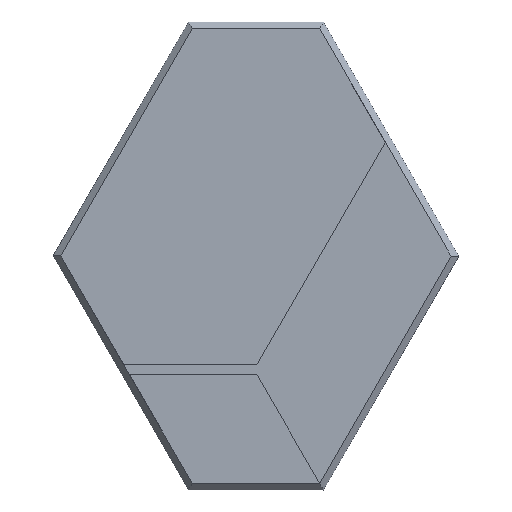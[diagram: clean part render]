
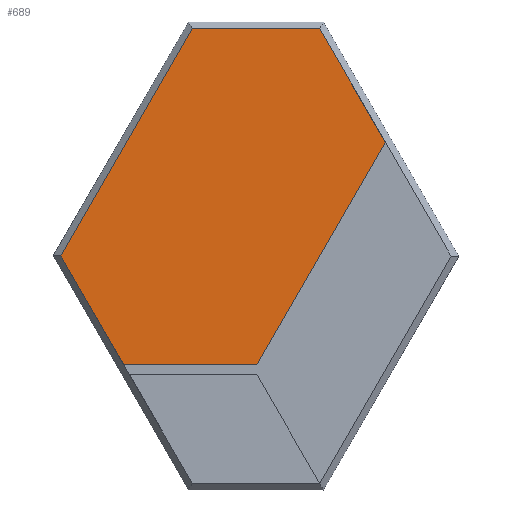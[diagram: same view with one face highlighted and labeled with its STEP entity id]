
A CAD part, front view. The second image highlights one B-rep face of the part: STEP entity #689.
In plain terms, the highlighted planar face has unit normal (0, -1, 0) as drawn and (0, 0, 1) by its records, which use the part's own axes.
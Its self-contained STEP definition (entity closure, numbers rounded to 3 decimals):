
#42 = EDGE_CURVE ( 'NONE', #2975, #2990, #504, .T. ) ;
#47 = VERTEX_POINT ( 'NONE', #3297 ) ;
#154 = EDGE_CURVE ( 'NONE', #47, #2588, #166, .T. ) ;
#166 = LINE ( 'NONE', #1404, #223 ) ;
#184 = DIRECTION ( 'NONE',  ( -0.5, -0.866, 0. ) ) ;
#223 = VECTOR ( 'NONE', #184, 1000. ) ;
#235 = CARTESIAN_POINT ( 'NONE',  ( 193.465, 170., 20. ) ) ;
#244 = CARTESIAN_POINT ( 'NONE',  ( 71.39, -41.253, 20. ) ) ;
#299 = DIRECTION ( 'NONE',  ( 1., 0., 0. ) ) ;
#408 = DIRECTION ( 'NONE',  ( -1., 0., 0. ) ) ;
#452 = DIRECTION ( 'NONE',  ( -0.5, 0.866, 0. ) ) ;
#471 = LINE ( 'NONE', #3914, #3871 ) ;
#504 = LINE ( 'NONE', #244, #3018 ) ;
#538 = VECTOR ( 'NONE', #1975, 1000. ) ;
#593 = CARTESIAN_POINT ( 'NONE',  ( -197.799, -162.5, 20. ) ) ;
#626 = VECTOR ( 'NONE', #408, 1000. ) ;
#659 = DIRECTION ( 'NONE',  ( 0., 0., 1. ) ) ;
#689 = ADVANCED_FACE ( 'NONE', ( #3770 ), #2554, .T. ) ;
#1063 = ORIENTED_EDGE ( 'NONE', *, *, #2722, .T. ) ;
#1077 = VECTOR ( 'NONE', #2939, 1000. ) ;
#1125 = ORIENTED_EDGE ( 'NONE', *, *, #154, .T. ) ;
#1269 = CARTESIAN_POINT ( 'NONE',  ( 0., 340., 20. ) ) ;
#1366 = EDGE_LOOP ( 'NONE', ( #2581, #3032, #2559, #2956, #1125, #1063 ) ) ;
#1404 = CARTESIAN_POINT ( 'NONE',  ( -218.679, 126.365, 20. ) ) ;
#1881 = CARTESIAN_POINT ( 'NONE',  ( 0., 0., 20. ) ) ;
#1955 = CARTESIAN_POINT ( 'NONE',  ( -218.679, -126.365, 20. ) ) ;
#1975 = DIRECTION ( 'NONE',  ( 0.5, -0.866, 0. ) ) ;
#1999 = LINE ( 'NONE', #3894, #1077 ) ;
#2256 = VERTEX_POINT ( 'NONE', #2447 ) ;
#2447 = CARTESIAN_POINT ( 'NONE',  ( 95.229, 340., 20. ) ) ;
#2554 = PLANE ( 'NONE',  #3454 ) ;
#2559 = ORIENTED_EDGE ( 'NONE', *, *, #2881, .T. ) ;
#2581 = ORIENTED_EDGE ( 'NONE', *, *, #2845, .T. ) ;
#2588 = VERTEX_POINT ( 'NONE', #3066 ) ;
#2722 = EDGE_CURVE ( 'NONE', #2588, #3826, #2843, .T. ) ;
#2843 = LINE ( 'NONE', #1955, #538 ) ;
#2845 = EDGE_CURVE ( 'NONE', #3826, #2975, #1999, .T. ) ;
#2881 = EDGE_CURVE ( 'NONE', #2990, #2256, #471, .T. ) ;
#2939 = DIRECTION ( 'NONE',  ( 1., 0., 0. ) ) ;
#2956 = ORIENTED_EDGE ( 'NONE', *, *, #3146, .T. ) ;
#2975 = VERTEX_POINT ( 'NONE', #3847 ) ;
#2990 = VERTEX_POINT ( 'NONE', #235 ) ;
#3018 = VECTOR ( 'NONE', #3882, 1000. ) ;
#3032 = ORIENTED_EDGE ( 'NONE', *, *, #42, .T. ) ;
#3066 = CARTESIAN_POINT ( 'NONE',  ( -291.7, 0., 20. ) ) ;
#3146 = EDGE_CURVE ( 'NONE', #2256, #47, #3502, .T. ) ;
#3297 = CARTESIAN_POINT ( 'NONE',  ( -95.229, 340., 20. ) ) ;
#3454 = AXIS2_PLACEMENT_3D ( 'NONE', #1881, #659, #299 ) ;
#3502 = LINE ( 'NONE', #1269, #626 ) ;
#3770 = FACE_OUTER_BOUND ( 'NONE', #1366, .T. ) ;
#3826 = VERTEX_POINT ( 'NONE', #593 ) ;
#3847 = CARTESIAN_POINT ( 'NONE',  ( 1.327, -162.5, 20. ) ) ;
#3871 = VECTOR ( 'NONE', #452, 1000. ) ;
#3882 = DIRECTION ( 'NONE',  ( 0.5, 0.866, 0. ) ) ;
#3894 = CARTESIAN_POINT ( 'NONE',  ( 0., -162.5, 20. ) ) ;
#3914 = CARTESIAN_POINT ( 'NONE',  ( 218.679, 126.365, 20. ) ) ;
